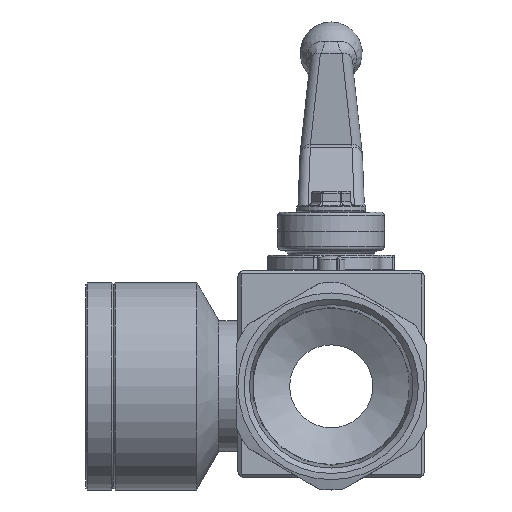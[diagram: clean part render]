
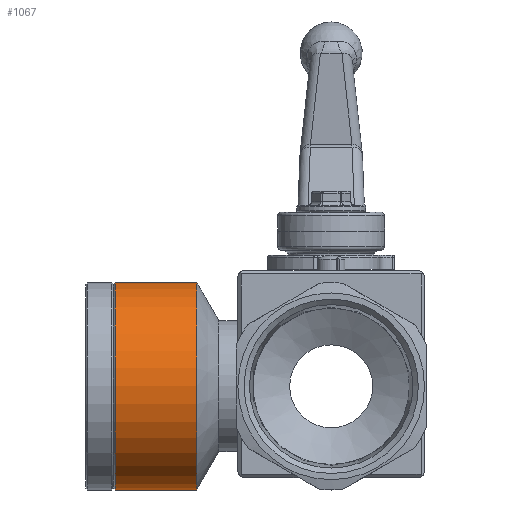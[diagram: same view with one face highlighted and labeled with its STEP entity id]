
A CAD part, front view. The second image highlights one B-rep face of the part: STEP entity #1067.
In plain terms, the highlighted cylindrical face has radius 30 mm (diameter 60 mm), a full revolution.
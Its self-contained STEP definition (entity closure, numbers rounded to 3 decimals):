
#1067 = ADVANCED_FACE( '', ( #2226, #2227 ), #2228, .T. );
#2226 = FACE_OUTER_BOUND( '', #4185, .T. );
#2227 = FACE_OUTER_BOUND( '', #4186, .T. );
#2228 = CYLINDRICAL_SURFACE( '', #4187, 30. );
#4185 = EDGE_LOOP( '', ( #6879 ) );
#4186 = EDGE_LOOP( '', ( #6880 ) );
#4187 = AXIS2_PLACEMENT_3D( '', #6881, #6882, #6883 );
#6879 = ORIENTED_EDGE( '', *, *, #9361, .T. );
#6880 = ORIENTED_EDGE( '', *, *, #9362, .F. );
#6881 = CARTESIAN_POINT( '', ( -47., 0., 0. ) );
#6882 = DIRECTION( '', ( -1., 0., 0. ) );
#6883 = DIRECTION( '', ( 0., 0., -1. ) );
#9361 = EDGE_CURVE( '', #11211, #11211, #11212, .T. );
#9362 = EDGE_CURVE( '', #11213, #11213, #11214, .T. );
#11211 = VERTEX_POINT( '', #14456 );
#11212 = CIRCLE( '', #14457, 30. );
#11213 = VERTEX_POINT( '', #14458 );
#11214 = CIRCLE( '', #14459, 30. );
#14456 = CARTESIAN_POINT( '', ( -14.909, 0., 30. ) );
#14457 = AXIS2_PLACEMENT_3D( '', #16507, #16508, #16509 );
#14458 = CARTESIAN_POINT( '', ( -38.5, 0., 30. ) );
#14459 = AXIS2_PLACEMENT_3D( '', #16510, #16511, #16512 );
#16507 = CARTESIAN_POINT( '', ( -14.909, 0., 0. ) );
#16508 = DIRECTION( '', ( -1., 0., 0. ) );
#16509 = DIRECTION( '', ( 0., 0., 1. ) );
#16510 = CARTESIAN_POINT( '', ( -38.5, 0., 0. ) );
#16511 = DIRECTION( '', ( -1., 0., 0. ) );
#16512 = DIRECTION( '', ( 0., 0., 1. ) );
